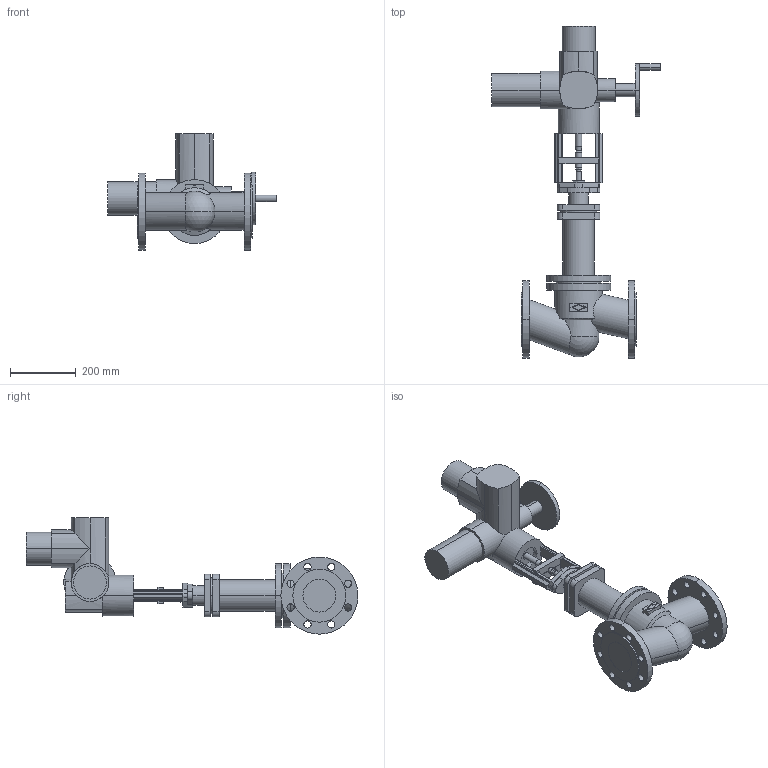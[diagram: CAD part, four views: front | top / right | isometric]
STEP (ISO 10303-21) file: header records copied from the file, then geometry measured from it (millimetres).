
FILE_DESCRIPTION(('OneSpaceDesigner STEP Export'),'2;1');
FILE_NAME('c000003140.stp','2007-01-19T11:30:08',(''),(''),'OneSpace Designer STEP processor for AP214 (Solid Model)','OneSpace Designer 14.00B 27-May-2006 (C) CoCreate Software GmbH','');
FILE_SCHEMA(('AUTOMOTIVE_DESIGN { 1 0 10303 214 1 1 1 1 }'));
Length unit declared in the file: millimetre
Products named in the file (2): 1; 2
Bounding box: 514 x 1011.7 x 354.5 mm (x, y, z)
Volume: 18329933.6 mm3; surface area: 1008172.9 mm2
Topology: 2 solids, 2 shells, 316 faces, 808 edges, 515 vertices
Faces by surface type: cylinder 162, plane 146, cone 6, sphere 2
Entity records: 10152 total; most frequent: CARTESIAN_POINT 2089, ORIENTED_EDGE 1612, DIRECTION 1369, SURFACE_CURVE 806, EDGE_CURVE 806, VERTEX_POINT 515, AXIS2_PLACEMENT_3D 468, VECTOR 433
